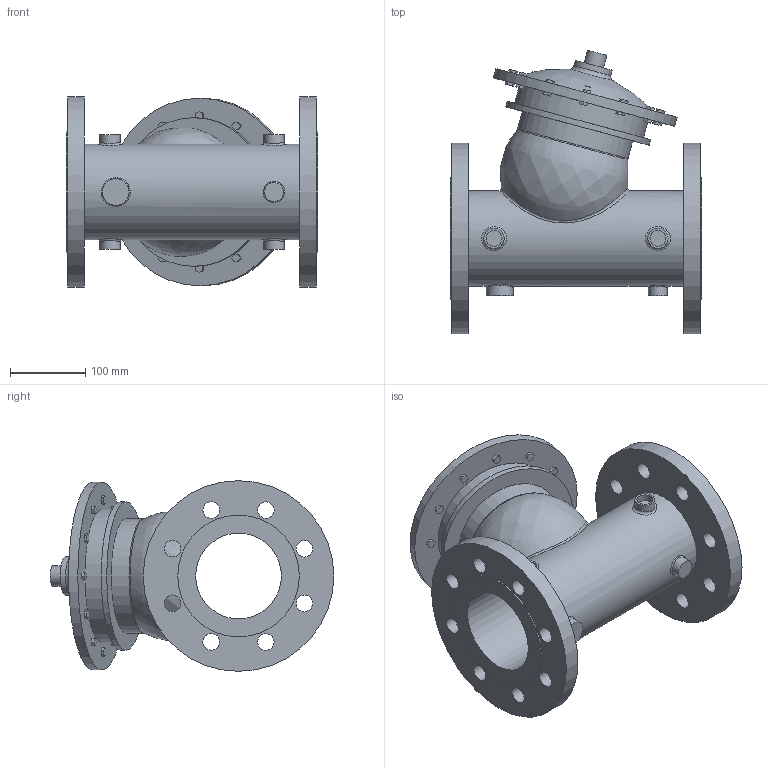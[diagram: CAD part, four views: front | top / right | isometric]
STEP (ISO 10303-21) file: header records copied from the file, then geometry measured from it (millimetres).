
FILE_DESCRIPTION(/* description */ ('VIC FP VALVE PRESSURE RELIEF SERIES 867-7UF (PN25)','CAx-IF Rec.Pracs.---Representation and Presentation of Product Manufacturing Information (PMI)---4.0---2014-10-13'),/* implementation_level */ '2;1');
FILE_NAME(/* name */ 'C:\Series 867-7UF\New folder (2)\step\Victaulic_FP-Bermad_Valve Pressure Relief_Series 867-7UF (PN25)\Victaulic_FP-Bermad_Valve Pressure Relief_Series 867-7UF (PN25)_4 (100).stp',/* time_stamp */ '2021-09-02T12:56:06+05:00',/* author */ ('kkamble'),/* organization */ ('Victaulic'),/* preprocessor_version */ 'ST-DEVELOPER v17.2',/* originating_system */ 'Autodesk Inventor 2019',/* authorisation */ '');
FILE_SCHEMA (('AP242_MANAGED_MODEL_BASED_3D_ENGINEERING_MIM_LF { 1 0 10303 442 1 1 4 }'));
Length unit declared in the file: inch
Products named in the file (1): 867-7UF-04.0
Bounding box: 335.03 x 378 x 254 mm (x, y, z)
Volume: 6390503.9 mm3; surface area: 618337.9 mm2
Topology: 1 solids, 1 shells, 255 faces, 649 edges, 441 vertices
Faces by surface type: plane 206, cylinder 38, bspline 9, torus 2
Full cylindrical faces by diameter (mm): 21.336 x4, 22.098 x16, 25.4 x1, 26.67 x1, 26.873 x4, 35.56 x1, 50.8 x1, 114.3 x1, 127 x1, 152.4 x1, 162.052 x2, 177.8 x1, 198.12 x1, 249.936 x1, 254 x2
Entity records: 9205 total; most frequent: CARTESIAN_POINT 2497, ORIENTED_EDGE 1310, DIRECTION 1250, EDGE_CURVE 655, LINE 498, VECTOR 498, VERTEX_POINT 447, AXIS2_PLACEMENT_3D 376
